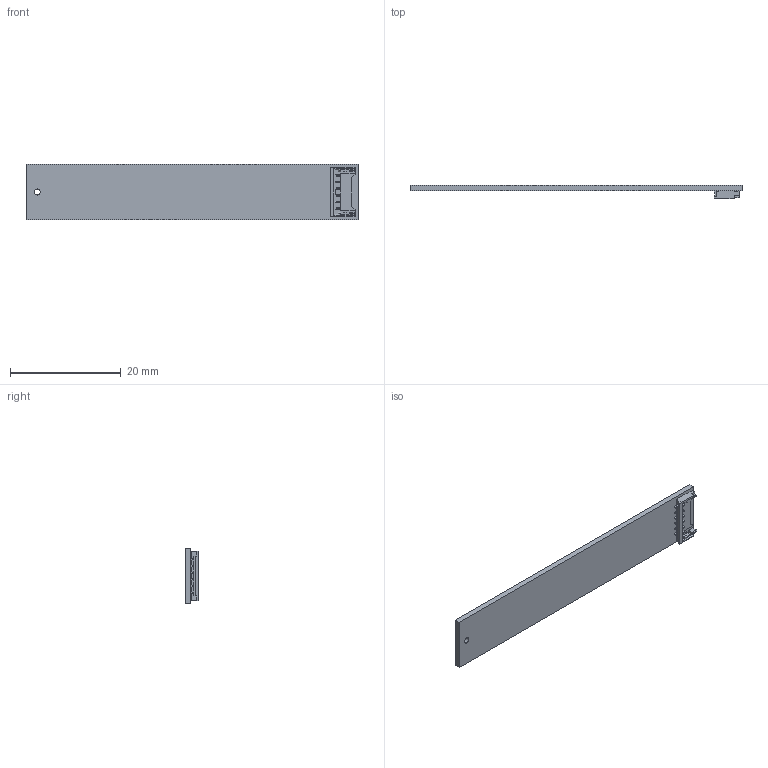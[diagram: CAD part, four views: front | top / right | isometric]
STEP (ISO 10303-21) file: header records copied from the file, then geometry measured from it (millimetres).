
FILE_DESCRIPTION (( 'STEP AP214' ), '1' );
FILE_NAME ('033-2019_0001_(40mm_B6_Linear_Sensor_3D).STEP', '2025-06-02T09:48:51', ( '' ), ( '' ), 'SwSTEP 2.0', 'SolidWorks 2024', '' );
FILE_SCHEMA (( 'AUTOMOTIVE_DESIGN' ));
Length unit declared in the file: millimetre
Products named in the file (3): 010-0180_0001_(40mm_B6_LinearSensorPCB); 781715006; 033-2019_0001_(40mm_B6_Linear_Sensor_3D)
Assembly tree (2 placements, depth 2):
  033-2019_0001_(40mm_B6_Linear_Sensor_3D)
    010-0180_0001_(40mm_B6_LinearSensorPCB)
    781715006
Bounding box: 60 x 2.45 x 10 mm (x, y, z)
Volume: 617.1 mm3; surface area: 1476.9 mm2
Topology: 2 solids, 2 shells, 274 faces, 796 edges, 526 vertices
Faces by surface type: plane 264, cylinder 10
Entity records: 9036 total; most frequent: CARTESIAN_POINT 1601, ORIENTED_EDGE 1592, DIRECTION 1374, EDGE_CURVE 796, LINE 776, VECTOR 776, VERTEX_POINT 526, AXIS2_PLACEMENT_3D 299
